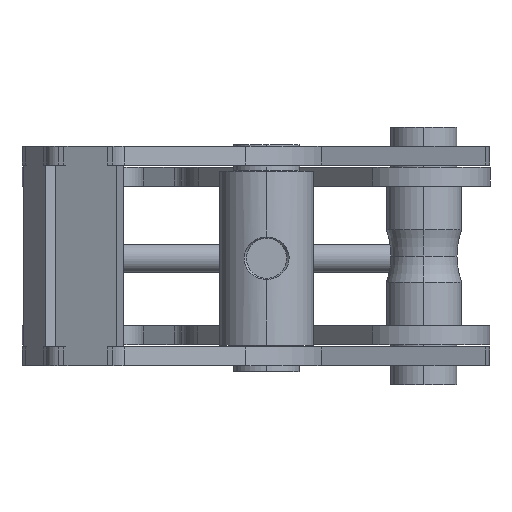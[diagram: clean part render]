
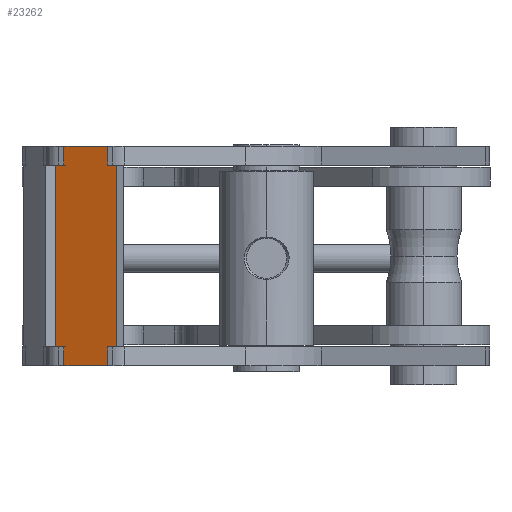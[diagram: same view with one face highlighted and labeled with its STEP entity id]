
A CAD part, left-side view. The second image highlights one B-rep face of the part: STEP entity #23262.
In plain terms, the highlighted planar face has unit normal (-0.929, 0.37, 0) as drawn and (0, 0, -1) by its records, which use the part's own axes.
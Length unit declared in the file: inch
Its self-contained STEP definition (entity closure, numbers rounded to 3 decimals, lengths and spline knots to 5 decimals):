
#149 = VERTEX_POINT ( 'NONE', #8643 ) ;
#191 = DIRECTION ( 'NONE',  ( -1., 0., 0. ) ) ;
#357 = VERTEX_POINT ( 'NONE', #4909 ) ;
#422 = VECTOR ( 'NONE', #10191, 39.37008 ) ;
#1033 = LINE ( 'NONE', #14372, #13077 ) ;
#1611 = EDGE_CURVE ( 'NONE', #357, #8466, #22110, .T. ) ;
#1700 = CARTESIAN_POINT ( 'NONE',  ( 0.25, 0.75, 0. ) ) ;
#1834 = LINE ( 'NONE', #11667, #24251 ) ;
#1945 = ORIENTED_EDGE ( 'NONE', *, *, #7360, .F. ) ;
#2918 = LINE ( 'NONE', #23515, #23083 ) ;
#3187 = LINE ( 'NONE', #19204, #17099 ) ;
#3191 = LINE ( 'NONE', #8665, #12612 ) ;
#3306 = LINE ( 'NONE', #18543, #5939 ) ;
#3530 = VECTOR ( 'NONE', #4219, 39.37008 ) ;
#3703 = ORIENTED_EDGE ( 'NONE', *, *, #1611, .F. ) ;
#4219 = DIRECTION ( 'NONE',  ( 1., 0., 0. ) ) ;
#4241 = CARTESIAN_POINT ( 'NONE',  ( 0., 0., 0. ) ) ;
#4460 = LINE ( 'NONE', #12065, #422 ) ;
#4580 = ORIENTED_EDGE ( 'NONE', *, *, #10554, .F. ) ;
#4901 = LINE ( 'NONE', #8763, #18688 ) ;
#4909 = CARTESIAN_POINT ( 'NONE',  ( 0.25, 0., 0. ) ) ;
#4989 = CARTESIAN_POINT ( 'NONE',  ( 0.25, 0., 0. ) ) ;
#5043 = DIRECTION ( 'NONE',  ( 0., -1., 0. ) ) ;
#5118 = VECTOR ( 'NONE', #16801, 39.37008 ) ;
#5529 = EDGE_CURVE ( 'NONE', #18154, #14010, #4460, .T. ) ;
#5839 = LINE ( 'NONE', #13450, #3530 ) ;
#5939 = VECTOR ( 'NONE', #20639, 39.37008 ) ;
#6126 = DIRECTION ( 'NONE',  ( 0., -1., 0. ) ) ;
#6755 = ORIENTED_EDGE ( 'NONE', *, *, #24190, .F. ) ;
#7142 = VERTEX_POINT ( 'NONE', #11401 ) ;
#7360 = EDGE_CURVE ( 'NONE', #14010, #7437, #22437, .T. ) ;
#7437 = VERTEX_POINT ( 'NONE', #1700 ) ;
#7520 = CARTESIAN_POINT ( 'NONE',  ( 2.66, 0., 0. ) ) ;
#7729 = PLANE ( 'NONE',  #12306 ) ;
#7785 = DIRECTION ( 'NONE',  ( 0., 1., 0. ) ) ;
#7861 = FACE_OUTER_BOUND ( 'NONE', #24676, .T. ) ;
#7931 = VECTOR ( 'NONE', #19032, 39.37008 ) ;
#8183 = CARTESIAN_POINT ( 'NONE',  ( 0.25, 0.875, 0. ) ) ;
#8466 = VERTEX_POINT ( 'NONE', #7520 ) ;
#8643 = CARTESIAN_POINT ( 'NONE',  ( 2.91, 0.75, 0. ) ) ;
#8665 = CARTESIAN_POINT ( 'NONE',  ( 0., 0.75, 0. ) ) ;
#8763 = CARTESIAN_POINT ( 'NONE',  ( 2.66, 0., 0. ) ) ;
#8773 = ORIENTED_EDGE ( 'NONE', *, *, #13240, .F. ) ;
#9122 = CARTESIAN_POINT ( 'NONE',  ( 2.91, 0.125, 0. ) ) ;
#9196 = EDGE_CURVE ( 'NONE', #15414, #357, #2918, .T. ) ;
#9538 = ORIENTED_EDGE ( 'NONE', *, *, #9196, .F. ) ;
#10191 = DIRECTION ( 'NONE',  ( -1., 0., 0. ) ) ;
#10411 = EDGE_CURVE ( 'NONE', #13453, #18154, #3306, .T. ) ;
#10554 = EDGE_CURVE ( 'NONE', #17548, #21952, #3187, .T. ) ;
#11100 = DIRECTION ( 'NONE',  ( 1., 0., 0. ) ) ;
#11401 = CARTESIAN_POINT ( 'NONE',  ( 2.66, 0.125, 0. ) ) ;
#11541 = CARTESIAN_POINT ( 'NONE',  ( 2.91, 0.125, 0. ) ) ;
#11657 = LINE ( 'NONE', #11541, #13099 ) ;
#11667 = CARTESIAN_POINT ( 'NONE',  ( 2.91, 0.75, 0. ) ) ;
#12065 = CARTESIAN_POINT ( 'NONE',  ( 0.25, 0.875, 0. ) ) ;
#12306 = AXIS2_PLACEMENT_3D ( 'NONE', #4241, #19235, #13600 ) ;
#12612 = VECTOR ( 'NONE', #23664, 39.37008 ) ;
#13077 = VECTOR ( 'NONE', #11100, 39.37008 ) ;
#13099 = VECTOR ( 'NONE', #7785, 39.37008 ) ;
#13240 = EDGE_CURVE ( 'NONE', #7437, #17548, #3191, .T. ) ;
#13450 = CARTESIAN_POINT ( 'NONE',  ( 2.91, 0.125, 0. ) ) ;
#13453 = VERTEX_POINT ( 'NONE', #14271 ) ;
#13600 = DIRECTION ( 'NONE',  ( 1., 0., 0. ) ) ;
#13659 = CARTESIAN_POINT ( 'NONE',  ( 2.66, 0.875, 0. ) ) ;
#14010 = VERTEX_POINT ( 'NONE', #8183 ) ;
#14271 = CARTESIAN_POINT ( 'NONE',  ( 2.66, 0.75, 0. ) ) ;
#14372 = CARTESIAN_POINT ( 'NONE',  ( 0., 0.125, 0. ) ) ;
#15414 = VERTEX_POINT ( 'NONE', #21737 ) ;
#15795 = CARTESIAN_POINT ( 'NONE',  ( 0., 0.75, 0. ) ) ;
#16801 = DIRECTION ( 'NONE',  ( 0., -1., 0. ) ) ;
#17099 = VECTOR ( 'NONE', #5043, 39.37008 ) ;
#17166 = ORIENTED_EDGE ( 'NONE', *, *, #20976, .F. ) ;
#17376 = ORIENTED_EDGE ( 'NONE', *, *, #21257, .F. ) ;
#17548 = VERTEX_POINT ( 'NONE', #15795 ) ;
#18154 = VERTEX_POINT ( 'NONE', #13659 ) ;
#18543 = CARTESIAN_POINT ( 'NONE',  ( 2.66, 0.875, 0. ) ) ;
#18688 = VECTOR ( 'NONE', #24011, 39.37008 ) ;
#19032 = DIRECTION ( 'NONE',  ( 1., 0., 0. ) ) ;
#19204 = CARTESIAN_POINT ( 'NONE',  ( 0., 0.125, 0. ) ) ;
#19235 = DIRECTION ( 'NONE',  ( 0., 0., 1. ) ) ;
#19285 = ORIENTED_EDGE ( 'NONE', *, *, #5529, .F. ) ;
#19317 = ORIENTED_EDGE ( 'NONE', *, *, #10411, .F. ) ;
#19862 = EDGE_CURVE ( 'NONE', #149, #13453, #1834, .T. ) ;
#20080 = ORIENTED_EDGE ( 'NONE', *, *, #19862, .F. ) ;
#20639 = DIRECTION ( 'NONE',  ( 0., 1., 0. ) ) ;
#20675 = CARTESIAN_POINT ( 'NONE',  ( 0., 0.125, 0. ) ) ;
#20976 = EDGE_CURVE ( 'NONE', #21952, #15414, #1033, .T. ) ;
#21257 = EDGE_CURVE ( 'NONE', #7142, #22830, #5839, .T. ) ;
#21295 = ORIENTED_EDGE ( 'NONE', *, *, #22649, .F. ) ;
#21737 = CARTESIAN_POINT ( 'NONE',  ( 0.25, 0.125, 0. ) ) ;
#21952 = VERTEX_POINT ( 'NONE', #20675 ) ;
#22110 = LINE ( 'NONE', #4989, #7931 ) ;
#22437 = LINE ( 'NONE', #22792, #5118 ) ;
#22649 = EDGE_CURVE ( 'NONE', #8466, #7142, #4901, .T. ) ;
#22792 = CARTESIAN_POINT ( 'NONE',  ( 0.25, 0.875, 0. ) ) ;
#22830 = VERTEX_POINT ( 'NONE', #9122 ) ;
#23083 = VECTOR ( 'NONE', #6126, 39.37008 ) ;
#23262 = ADVANCED_FACE ( 'NONE', ( #7861 ), #7729, .F. ) ;
#23515 = CARTESIAN_POINT ( 'NONE',  ( 0.25, 0., 0. ) ) ;
#23664 = DIRECTION ( 'NONE',  ( -1., 0., 0. ) ) ;
#24011 = DIRECTION ( 'NONE',  ( 0., 1., 0. ) ) ;
#24190 = EDGE_CURVE ( 'NONE', #22830, #149, #11657, .T. ) ;
#24251 = VECTOR ( 'NONE', #191, 39.37008 ) ;
#24676 = EDGE_LOOP ( 'NONE', ( #1945, #19285, #19317, #20080, #6755, #17376, #21295, #3703, #9538, #17166, #4580, #8773 ) ) ;
